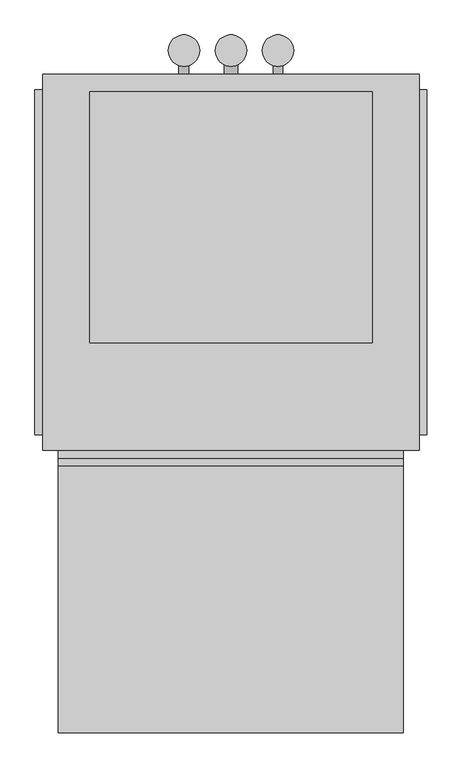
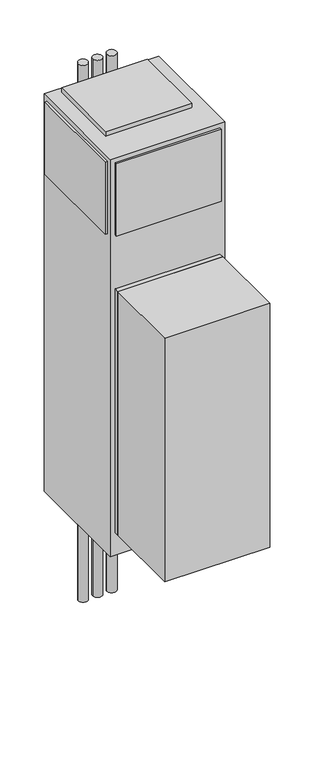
"""IFC4 building model written with IfcOpenShell, lengths in millimetres: proxy geometry, Concealed_Universal_Modular_Fan_Coil_Unit_-_42SUB_-_CARRIER_-_2-Pipe_Cool-EHeat_-_WithRisers_2022 : Size 12 - 277v/60Hz/1Ph - 4 Row 8.0kW."""

from ifc_helpers import new_model, si_unit, point, frame, frame_2d, origin, origin_with_axes, place, context, project, spatial, polyline, circle_curve, trimmed, segment, composite_curve, outline, extrude, source, transform, mapped, element, save


def mechanical_equipment_b0b4adb2(model_context):
    return source(origin(), model_context, "Body", "SweptSolid", [
        extrude(outline(composite_curve([segment(trimmed(circle_curve(frame_2d((381.0, 282.575)), 25.4), [point((355.6, 282.575))], [point((406.4, 282.575))], False, "CARTESIAN"), True, "CONTINUOUS"), segment(trimmed(circle_curve(frame_2d((381.0, 282.575)), 25.4), [point((406.4, 282.575))], [point((355.6, 282.575))], False, "CARTESIAN"), True, "CONTINUOUS")], self_intersect=False)), frame((0.0, 0.0, -711.2), z_axis=(0.0, 0.0, 1.0), x_axis=(1.0, 0.0, 0.0)), (0.0, 0.0, 1.0), 3022.6),
        extrude(outline(composite_curve([segment(trimmed(circle_curve(frame_2d((457.2, 282.575)), 25.4), [point((431.8, 282.575))], [point((482.6, 282.575))], False, "CARTESIAN"), True, "CONTINUOUS"), segment(trimmed(circle_curve(frame_2d((457.2, 282.575)), 25.4), [point((482.6, 282.575))], [point((431.8, 282.575))], False, "CARTESIAN"), True, "CONTINUOUS")], self_intersect=False)), frame((0.0, 0.0, -711.2), z_axis=(0.0, 0.0, 1.0), x_axis=(1.0, 0.0, 0.0)), (0.0, 0.0, 1.0), 3022.6),
        extrude(outline(composite_curve([segment(trimmed(circle_curve(frame_2d((533.4, 282.575)), 25.4), [point((508.0, 282.575))], [point((558.8, 282.575))], False, "CARTESIAN"), True, "CONTINUOUS"), segment(trimmed(circle_curve(frame_2d((533.4, 282.575)), 25.4), [point((558.8, 282.575))], [point((508.0, 282.575))], False, "CARTESIAN"), True, "CONTINUOUS")], self_intersect=False)), frame((0.0, 0.0, -711.2), z_axis=(0.0, 0.0, 1.0), x_axis=(1.0, 0.0, 0.0)), (0.0, 0.0, 1.0), 3022.6),
        extrude(outline(polyline([(736.6, -390.525), (736.6, -822.325), (177.8, -822.325), (177.8, -390.525), (736.6, -390.525)])), frame((0.0, 0.0, 127.0), z_axis=(0.0, 0.0, 1.0), x_axis=(1.0, 0.0, 0.0)), (0.0, 0.0, 1.0), 1371.6),
        extrude(outline(composite_curve([segment(trimmed(circle_curve(frame_2d((990.6, 533.4)), 7.9375), [point((990.6, 525.4625))], [point((990.6, 541.3375))], False, "CARTESIAN"), True, "CONTINUOUS"), segment(trimmed(circle_curve(frame_2d((990.6, 533.4)), 7.9375), [point((990.6, 541.3375))], [point((990.6, 525.4625))], False, "CARTESIAN"), True, "CONTINUOUS")], self_intersect=False)), frame((0.0, 244.475, 0.0), z_axis=(0.0, 1.0, 0.0), x_axis=(0.0, 0.0, 1.0)), (0.0, 0.0, 1.0), 50.8),
        extrude(outline(composite_curve([segment(trimmed(circle_curve(frame_2d((990.6, 381.0)), 7.9375), [point((990.6, 373.0625))], [point((990.6, 388.9375))], False, "CARTESIAN"), True, "CONTINUOUS"), segment(trimmed(circle_curve(frame_2d((990.6, 381.0)), 7.9375), [point((990.6, 388.9375))], [point((990.6, 373.0625))], False, "CARTESIAN"), True, "CONTINUOUS")], self_intersect=False)), frame((0.0, 244.475, 0.0), z_axis=(0.0, 1.0, 0.0), x_axis=(0.0, 0.0, 1.0)), (0.0, 0.0, 1.0), 50.8),
        extrude(outline(composite_curve([segment(trimmed(circle_curve(frame_2d((76.2, 457.2)), 11.1125), [point((76.2, 446.0875))], [point((76.2, 468.3125))], False, "CARTESIAN"), True, "CONTINUOUS"), segment(trimmed(circle_curve(frame_2d((76.2, 457.2)), 11.1125), [point((76.2, 468.3125))], [point((76.2, 446.0875))], False, "CARTESIAN"), True, "CONTINUOUS")], self_intersect=False)), frame((0.0, 244.475, 0.0), z_axis=(0.0, 1.0, 0.0), x_axis=(0.0, 0.0, 1.0)), (0.0, 0.0, 1.0), 50.8),
        extrude(outline(polyline([(685.8, 215.9), (685.8, -190.5), (228.6, -190.5), (228.6, 215.9), (685.8, 215.9)])), frame((0.0, 0.0, 2235.2), z_axis=(0.0, 0.0, 1.0), x_axis=(1.0, 0.0, 0.0)), (0.0, 0.0, 1.0), 25.4),
        extrude(outline(polyline([(139.7, -339.725), (139.7, 219.075), (152.4, 219.075), (152.4, -339.725), (139.7, -339.725)])), frame((0.0, 0.0, 1803.4), z_axis=(0.0, 0.0, 1.0), x_axis=(1.0, 0.0, 0.0)), (0.0, 0.0, 1.0), 406.4),
        extrude(outline(polyline([(774.7, 219.075), (774.7, -339.725), (762.0, -339.725), (762.0, 219.075), (774.7, 219.075)])), frame((0.0, 0.0, 1803.4), z_axis=(0.0, 0.0, 1.0), x_axis=(1.0, 0.0, 0.0)), (0.0, 0.0, 1.0), 406.4),
        extrude(outline(polyline([(736.6, -377.825), (177.8, -377.825), (177.8, -365.125), (736.6, -365.125), (736.6, -377.825)])), frame((0.0, 0.0, 1803.4), z_axis=(0.0, 0.0, 1.0), x_axis=(1.0, 0.0, 0.0)), (0.0, 0.0, 1.0), 406.4),
        extrude(outline(polyline([(736.6, -390.525), (177.8, -390.525), (177.8, -365.125), (736.6, -365.125), (736.6, -390.525)])), frame((0.0, 0.0, 127.0), z_axis=(0.0, 0.0, 1.0), x_axis=(1.0, 0.0, 0.0)), (0.0, 0.0, 1.0), 1371.6),
        extrude(outline(polyline([(762.0, 244.475), (762.0, -365.125), (152.4, -365.125), (152.4, 244.475), (762.0, 244.475)])), origin_with_axes(), (0.0, 0.0, 1.0), 2235.2),
    ])


if __name__ == "__main__":
    model = new_model("IFC4")
    model_context = context("Model", 3, world=origin())
    ifc_project = project(units=[si_unit("LENGTHUNIT", "METRE", prefix="MILLI")], contexts=[model_context])
    site = spatial("IfcSite", under=ifc_project)
    building = spatial("IfcBuilding", under=site)
    placement = place(None, origin())
    mechanical_equipment_shape = mechanical_equipment_b0b4adb2(model_context)
    element("IfcBuildingElementProxy", 1, Name="Concealed_Universal_Modular_Fan_Coil_Unit_-_42SUB_-_CARRIER_-_2-Pipe_Cool-EHeat_-_WithRisers_2022 : Size 12 - 277v/60Hz/1Ph - 4 Row 8.0kW", ObjectType="Concealed_Universal_Modular_Fan_Coil_Unit_-_42SUB_-_CARRIER_-_2-Pipe_Cool-EHeat_-_WithRisers_2022 : Size 12 - 277v/60Hz/1Ph - 4 Row 8.0kW", at=placement, inside=building, context=model_context, shape_type="MappedRepresentation", body=[
        mapped(mechanical_equipment_shape, transform((0.0, 0.0, 0.0), x_axis=(1.0, 0.0, 0.0), y_axis=(0.0, 1.0, 0.0), z_axis=(0.0, 0.0, 1.0))),
    ])
    save(model, "model.ifc")
